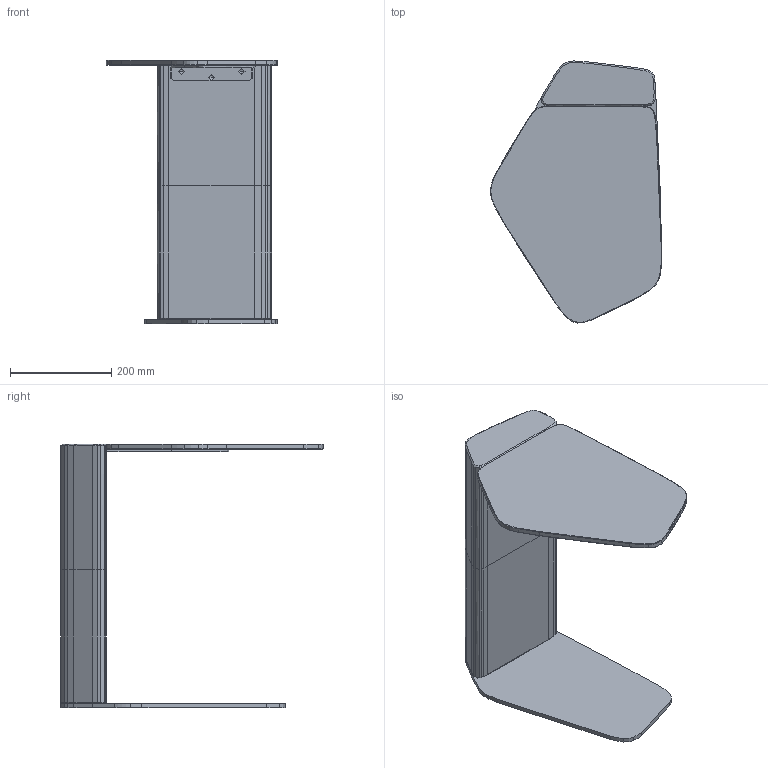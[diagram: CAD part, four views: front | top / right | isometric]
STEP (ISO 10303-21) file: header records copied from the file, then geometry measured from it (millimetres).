
FILE_DESCRIPTION(/* description */ (''),/* implementation_level */ '2;1');
FILE_NAME(/* name */ '3D_STO~1',/* time_stamp */ '2024-04-29T13:13:39+02:00',/* author */ (''),/* organization */ (''),/* preprocessor_version */ 'ST-DEVELOPER v16.5',/* originating_system */ '',/* authorisation */ '');
FILE_SCHEMA (('AUTOMOTIVE_DESIGN'));
Length unit declared in the file: millimetre
Products named in the file (1): Document
Bounding box: 337.88 x 516.57 x 520 mm (x, y, z)
Volume: 10678683.7 mm3; surface area: 832477.8 mm2
Topology: 5 solids, 5 shells, 284 faces, 661 edges, 395 vertices
Faces by surface type: bspline 251, plane 33
Entity records: 13064 total; most frequent: CARTESIAN_POINT 9261, ORIENTED_EDGE 1322, EDGE_CURVE 661, VERTEX_POINT 395, EDGE_LOOP 298, ADVANCED_FACE 284, FACE_OUTER_BOUND 284, B_SPLINE_CURVE_WITH_KNOTS 256
